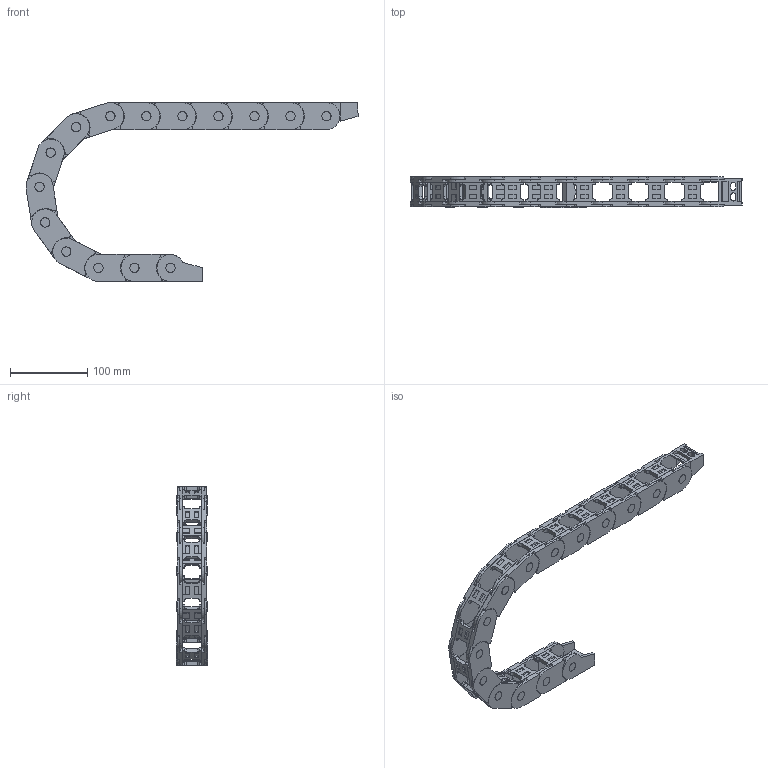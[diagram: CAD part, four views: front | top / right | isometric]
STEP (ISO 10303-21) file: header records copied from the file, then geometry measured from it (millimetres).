
FILE_DESCRIPTION((''),'2;1');
FILE_NAME('QS-25X25-R100_ASM','2022-06-10T15:24:54',('admin'),(''),'CREO PARAMETRIC BY PTC INC, 2021164','CREO PARAMETRIC BY PTC INC, 2021164','');
FILE_SCHEMA(('CONFIG_CONTROL_DESIGN','GEOMETRIC_VALIDATION_PROPERTIES_MIM'));
Length unit declared in the file: millimetre
Products named in the file (7): 25XL-L; 25XL-R; PIAN-25; ASM0001_ASM; 25X25-LTT-1; 25X25-LTT-2; QS-25X25-R100_ASM
Assembly tree (20 placements, depth 3):
  QS-25X25-R100_ASM
    ASM0001_ASM  x14
      25XL-L
      25XL-R
      PIAN-25
    25X25-LTT-1
    25X25-LTT-2
Bounding box: 429.57 x 40.6 x 231.55 mm (x, y, z)
Volume: 404054.6 mm3; surface area: 259381 mm2
Topology: 58 solids, 58 shells, 2268 faces, 6458 edges, 4338 vertices
Faces by surface type: plane 1744, cylinder 524
Entity records: 8157 total; most frequent: CARTESIAN_POINT 1299, DIRECTION 1154, ORIENTED_EDGE 1144, EDGE_CURVE 572, VECTOR 448, LINE 448, VERTEX_POINT 388, AXIS2_PLACEMENT_3D 353
